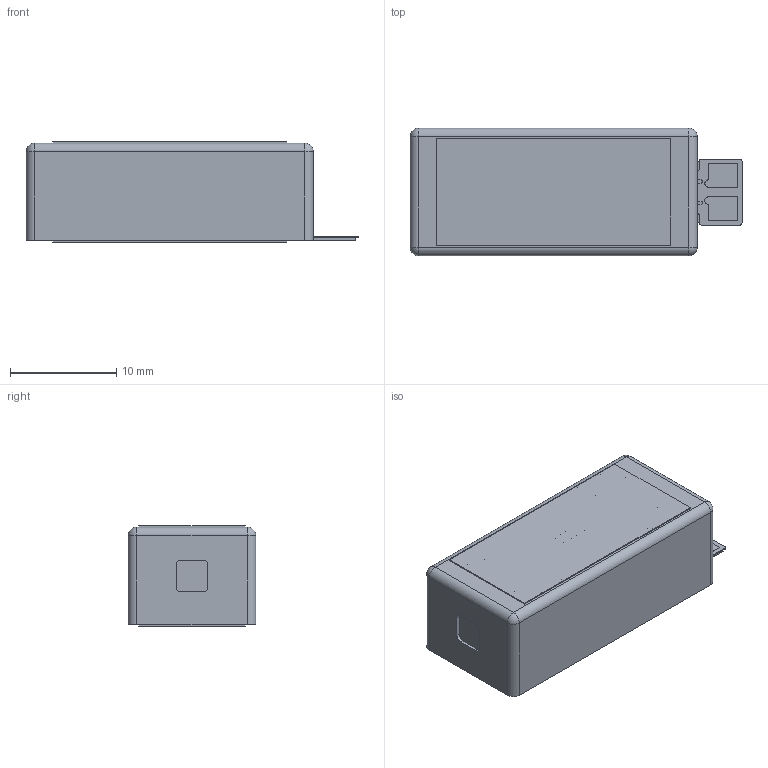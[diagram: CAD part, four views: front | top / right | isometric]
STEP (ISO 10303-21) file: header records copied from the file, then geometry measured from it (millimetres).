
FILE_DESCRIPTION(/* description */ (''),/* implementation_level */ '2;1');
FILE_NAME(/* name */ 'L:\검토\Motor\Lee W G\H linear\122792 (수평)\3D\Ass''y\6) Motor Ass''y\HLM 12x27x9.2t 3D (Lighbig).stp',/* time_stamp */ '2018-12-19T14:18:07+09:00',/* author */ ('skkim'),/* organization */ (''),/* preprocessor_version */ 'ST-DEVELOPER v16.13',/* originating_system */ 'Autodesk Inventor 2018',/* authorisation */ '');
FILE_SCHEMA (('AUTOMOTIVE_DESIGN { 1 0 10303 214 3 1 1 }'));
Length unit declared in the file: millimetre
Products named in the file (7): HLM 12x27x9.2t 3D (Lighbig); 18.01.05_CASE A_rev01; 18.04.26_CASE B_rev02; 18.05.14_FPCB; 김승기 Plate; 18.01.25_양면tape; 18.01.25_상tape
Assembly tree (7 placements, depth 2):
  HLM 12x27x9.2t 3D (Lighbig)
    18.01.05_CASE A_rev01
    18.04.26_CASE B_rev02
    18.05.14_FPCB
    김승기 Plate  x2
    18.01.25_양면tape
    18.01.25_상tape
Bounding box: 31.2 x 12 x 9.4 mm (x, y, z)
Volume: 426.3 mm3; surface area: 3710.2 mm2
Topology: 7 solids, 7 shells, 312 faces, 826 edges, 532 vertices
Faces by surface type: plane 198, cylinder 106, sphere 8
Entity records: 9812 total; most frequent: DIRECTION 1666, CARTESIAN_POINT 1658, ORIENTED_EDGE 1628, EDGE_CURVE 814, LINE 602, VECTOR 602, AXIS2_PLACEMENT_3D 532, VERTEX_POINT 524
